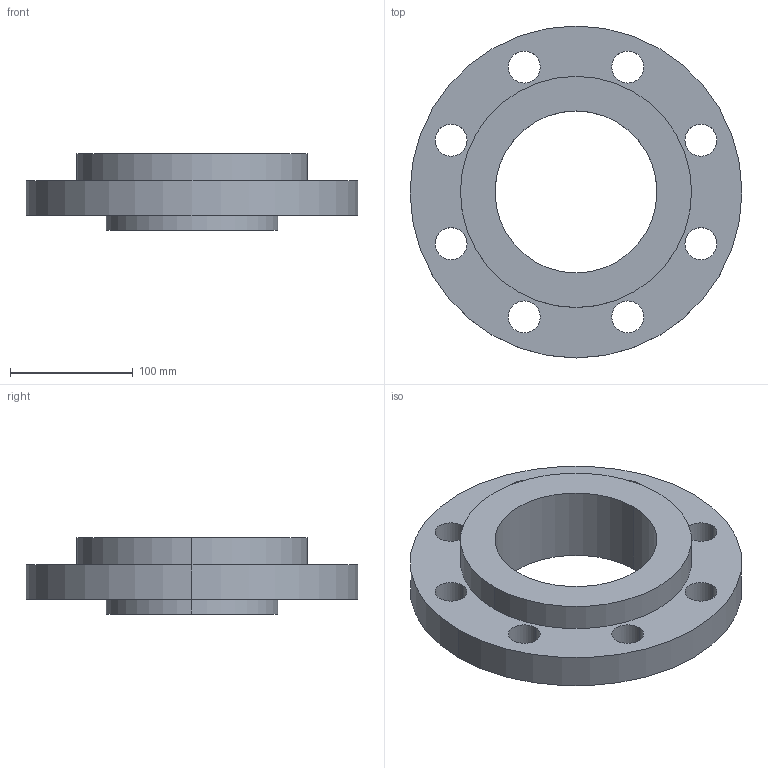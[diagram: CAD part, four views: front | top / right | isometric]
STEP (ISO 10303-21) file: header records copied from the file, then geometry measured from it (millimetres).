
FILE_DESCRIPTION (( 'STEP AP214' ), '1' );
FILE_NAME ('PN40 DN125 Type 04 in 34 - (Type A Face).STEP', '2019-01-02T19:35:46', ( '' ), ( '' ), 'SwSTEP 2.0', 'SolidWorks 2019', '' );
FILE_SCHEMA (( 'AUTOMOTIVE_DESIGN' ));
Length unit declared in the file: millimetre
Products named in the file (1): PN40 DN125 Type 04 in 34 - (Type A Face)
Bounding box: 270 x 270 x 62 mm (x, y, z)
Volume: 1279870.8 mm3; surface area: 199128.3 mm2
Topology: 2 solids, 2 shells, 37 faces, 90 edges, 58 vertices
Faces by surface type: cylinder 26, cone 6, plane 5
Entity records: 1197 total; most frequent: DIRECTION 224, CARTESIAN_POINT 186, ORIENTED_EDGE 180, AXIS2_PLACEMENT_3D 96, EDGE_CURVE 90, CIRCLE 58, EDGE_LOOP 58, VERTEX_POINT 58
